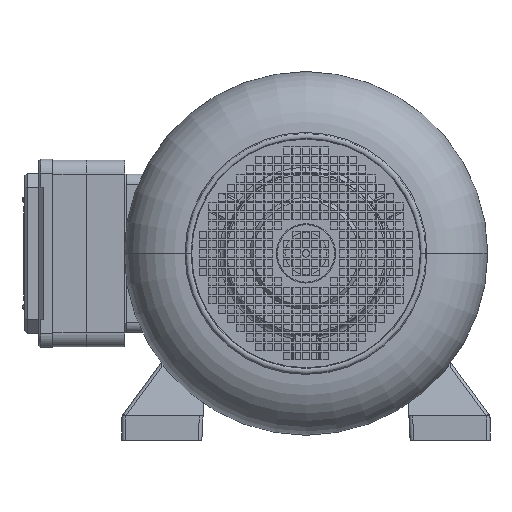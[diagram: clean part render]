
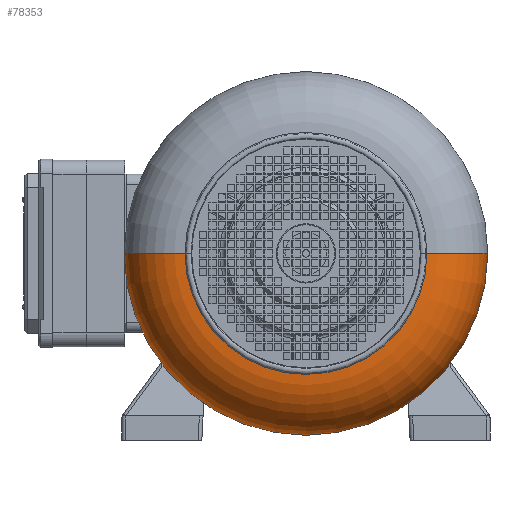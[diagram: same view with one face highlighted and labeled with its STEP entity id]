
A CAD part, left-side view. The second image highlights one B-rep face of the part: STEP entity #78353.
In plain terms, the highlighted toroidal (fillet/blend) face has major radius 128 mm and minor radius 66.5 mm.
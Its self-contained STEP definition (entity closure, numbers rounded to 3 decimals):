
#1686 = CARTESIAN_POINT ( 'NONE',  ( 131.517, 0., 0. ) ) ;
#2760 = AXIS2_PLACEMENT_3D ( 'NONE', #103894, #48548, #113150 ) ;
#5064 = DIRECTION ( 'NONE',  ( 0., 0., -1. ) ) ;
#9532 = CARTESIAN_POINT ( 'NONE',  ( 131.517, 0., 194.5 ) ) ;
#14818 = TOROIDAL_SURFACE ( 'NONE', #101479, 128., 66.5 ) ;
#20278 = DIRECTION ( 'NONE',  ( -1., 0., 0. ) ) ;
#23822 = ORIENTED_EDGE ( 'NONE', *, *, #26997, .F. ) ;
#24097 = VERTEX_POINT ( 'NONE', #99384 ) ;
#26997 = EDGE_CURVE ( 'NONE', #24097, #83119, #53820, .T. ) ;
#30744 = VERTEX_POINT ( 'NONE', #44781 ) ;
#44781 = CARTESIAN_POINT ( 'NONE',  ( 198., 0., -129.5 ) ) ;
#47915 = VERTEX_POINT ( 'NONE', #111598 ) ;
#48548 = DIRECTION ( 'NONE',  ( -1., 0., 0. ) ) ;
#51542 = EDGE_LOOP ( 'NONE', ( #83106, #86785, #107672, #23822 ) ) ;
#51829 = CARTESIAN_POINT ( 'NONE',  ( 131.517, 0., -128. ) ) ;
#53820 = CIRCLE ( 'NONE', #111102, 66.5 ) ;
#58163 = EDGE_CURVE ( 'NONE', #30744, #47915, #109253, .T. ) ;
#60386 = DIRECTION ( 'NONE',  ( 0., -1., 0. ) ) ;
#60403 = AXIS2_PLACEMENT_3D ( 'NONE', #51829, #116455, #61150 ) ;
#61150 = DIRECTION ( 'NONE',  ( 0., 0., 1. ) ) ;
#62256 = CIRCLE ( 'NONE', #2760, 129.5 ) ;
#66292 = DIRECTION ( 'NONE',  ( -1., 0., 0. ) ) ;
#73886 = CIRCLE ( 'NONE', #115291, 194.5 ) ;
#75627 = DIRECTION ( 'NONE',  ( 0., 0., 1. ) ) ;
#75706 = CARTESIAN_POINT ( 'NONE',  ( 131.517, 0., 0. ) ) ;
#78353 = ADVANCED_FACE ( 'NONE', ( #110242 ), #14818, .T. ) ;
#83106 = ORIENTED_EDGE ( 'NONE', *, *, #112818, .T. ) ;
#83119 = VERTEX_POINT ( 'NONE', #9532 ) ;
#84965 = DIRECTION ( 'NONE',  ( 0., 0., 1. ) ) ;
#86785 = ORIENTED_EDGE ( 'NONE', *, *, #58163, .T. ) ;
#87167 = EDGE_CURVE ( 'NONE', #83119, #47915, #73886, .T. ) ;
#99384 = CARTESIAN_POINT ( 'NONE',  ( 198., 0., 129.5 ) ) ;
#101479 = AXIS2_PLACEMENT_3D ( 'NONE', #1686, #66292, #75627 ) ;
#103894 = CARTESIAN_POINT ( 'NONE',  ( 198., 0., 0. ) ) ;
#107672 = ORIENTED_EDGE ( 'NONE', *, *, #87167, .F. ) ;
#109253 = CIRCLE ( 'NONE', #60403, 66.5 ) ;
#110242 = FACE_OUTER_BOUND ( 'NONE', #51542, .T. ) ;
#111102 = AXIS2_PLACEMENT_3D ( 'NONE', #115688, #60386, #5064 ) ;
#111598 = CARTESIAN_POINT ( 'NONE',  ( 131.517, 0., -194.5 ) ) ;
#112818 = EDGE_CURVE ( 'NONE', #24097, #30744, #62256, .T. ) ;
#113150 = DIRECTION ( 'NONE',  ( 0., 0., 1. ) ) ;
#115291 = AXIS2_PLACEMENT_3D ( 'NONE', #75706, #20278, #84965 ) ;
#115688 = CARTESIAN_POINT ( 'NONE',  ( 131.517, 0., 128. ) ) ;
#116455 = DIRECTION ( 'NONE',  ( 0., 1., 0. ) ) ;
